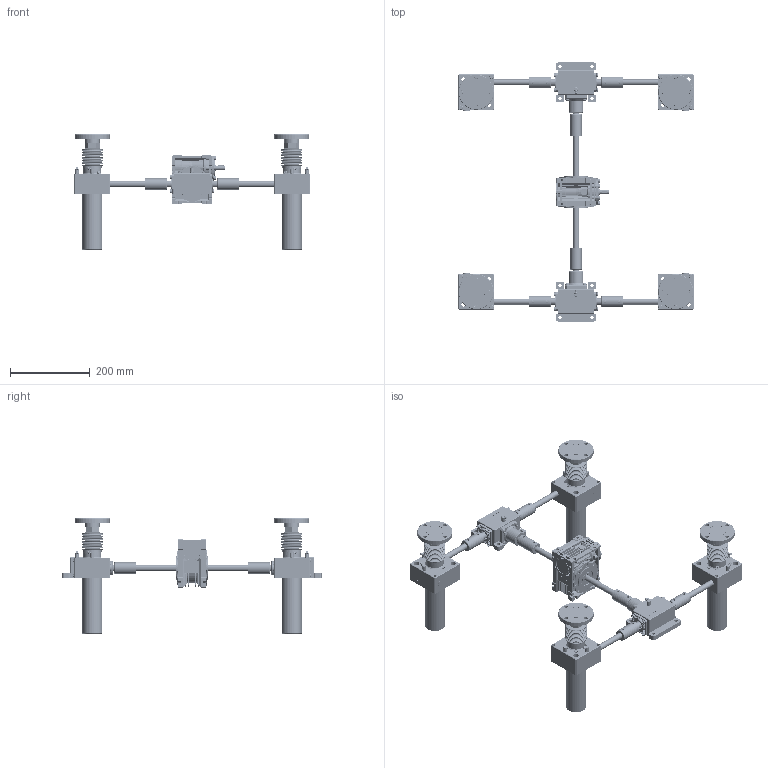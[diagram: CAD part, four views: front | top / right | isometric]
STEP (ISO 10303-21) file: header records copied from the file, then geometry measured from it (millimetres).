
FILE_DESCRIPTION(('STEP AP203'),'1');
FILE_NAME('SPMH500FCJ-500x500-250-100ST_CAP-040.stp','2016-08-18T05:24:15',(' '),(' '),'Spatial InterOp 3D',' ',' ');
FILE_SCHEMA(('CONFIG_CONTROL_DESIGN'));
Length unit declared in the file: millimetre
Products named in the file (242): SPMH500FCJ-500x500-250-100ST_CAP-040; Rack Gear(SP-500FC); Flange.1-Part; Flange.1; Joint.1; Nut.1; Flange.2-Part; Flange.2; Joint.2; Nut.2; Flange.3-Part; Flange.3; Joint.3; Nut.3; Flange.4-Part; Flange.4; Joint.4; Nut.4; Bellow(SP-500); Body.1-Part; Nipple; Bolt; Hole Cover.1(SP-500); Gear Box.1(Upper); Gear Box.1(Lower); Body_stand by; RJ05-4SCJ-610X600-100ST_CAP; LABEL-B.1; SUNIL __; 파트1; Body.2-Part; Hole Cover.2(SP-500); Gear Box.2(Upper); Gear Box.2(Lower); Body.3-Part; Hole Cover.3(SP-500); Gear Box.3(Upper); Gear Box.3(Lower); Body.4-Part; Hole Cover.4(SP-500)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
Assembly tree (269 placements, depth 6):
  SPMH500FCJ-500x500-250-100ST_CAP-040
    Rack Gear(SP-500FC)  x4
    Flange.1-Part
      Flange.1
      Joint.1
      Nut.1
    Flange.2-Part
      Flange.2
      Joint.2
      Nut.2
    Flange.3-Part
      Flange.3
      Joint.3
      Nut.3
    Flange.4-Part
      Flange.4
      Joint.4
      Nut.4
    Bellow(SP-500)
    Bellow(SP-500)
    Bellow(SP-500)
    Bellow(SP-500)
    Body.1-Part
      Nipple
      Nipple
      Bolt
      Bolt
      Bolt
      Bolt
      Bolt
      Hole Cover.1(SP-500)
      Gear Box.1(Upper)
      Gear Box.1(Lower)
        Body_stand by
        Body_stand by
        Body_stand by
        Body_stand by
        Body_stand by
        Body_stand by
        Body_stand by
        Body_stand by
        Body_stand by
        Body_stand by
        Body_stand by
        Body_stand by
        Body_stand by
        Body_stand by
        Body_stand by
        Body_stand by
        Body_stand by
        Body_stand by
        Body_stand by
      SUNIL __
        RJ05-4SCJ-610X600-100ST_CAP
          LABEL-B.1
        파트1
    Body.2-Part
      Nipple
      Nipple
      Bolt
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Bounding box: 590.6 x 649 x 290 mm (x, y, z)
Volume: 2813379.3 mm3; surface area: 1501115 mm2
Topology: 191 solids, 1767 shells, 16540 faces, 50068 edges, 35924 vertices
Faces by surface type: plane 13919, cylinder 1353, cone 586, revolution 214, extrusion 190, bspline 184, torus 90, sphere 4
Full cylindrical faces by diameter (mm): 2.5 x8, 4.8 x10, 6 x114, 7 x20, 8.5 x8, 9 x8, 9.5 x16, 9.886 x10, 10 x24, 10.5 x40, 11 x1, 13.5 x8, 15 x17, 17 x7, 18 x10, 22 x4, 23 x4, 25 x62, 26 x4, 27 x4, 28 x5, 28.3 x4, 29 x6, 29.5 x4, 30 x5, 34 x4, 35 x6, 36 x2, 37 x4, 38 x4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
Entity records: 555473 total; most frequent: CARTESIAN_POINT 137748, ORIENTED_EDGE 82535, DIRECTION 77222, EDGE_CURVE 45507, VECTOR 39228, LINE 39038, VERTEX_POINT 33416, AXIS2_PLACEMENT_3D 18890
